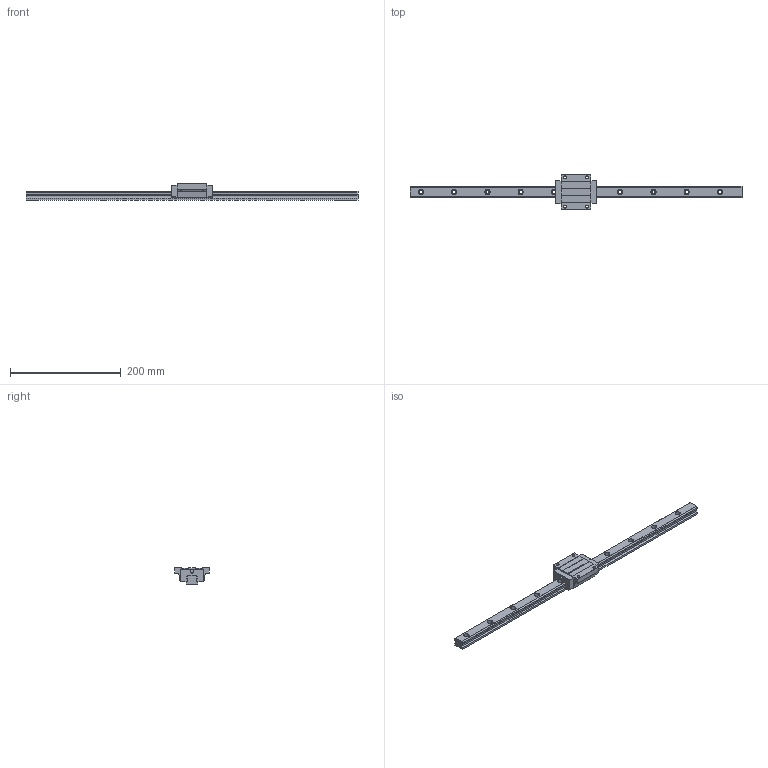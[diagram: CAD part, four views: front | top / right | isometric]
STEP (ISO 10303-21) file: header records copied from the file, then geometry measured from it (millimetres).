
FILE_DESCRIPTION (( 'STEP AP203' ), '1' );
FILE_NAME ('TRH20FN-XNC.STEP', '2024-08-16T05:38:28', ( '' ), ( '' ), 'SwSTEP 2.0', 'SolidWorks 2021', '' );
FILE_SCHEMA (( 'CONFIG_CONTROL_DESIGN' ));
Length unit declared in the file: millimetre
Products named in the file (1): TRH20FN-XNC
Bounding box: 600 x 63 x 30 mm (x, y, z)
Volume: 239170.8 mm3; surface area: 64376.6 mm2
Topology: 1 solids, 1 shells, 187 faces, 530 edges, 346 vertices
Faces by surface type: cylinder 100, plane 83, sphere 4
Entity records: 6533 total; most frequent: CARTESIAN_POINT 1412, DIRECTION 1078, ORIENTED_EDGE 1052, EDGE_CURVE 526, AXIS2_PLACEMENT_3D 382, VERTEX_POINT 346, LINE 314, VECTOR 314
